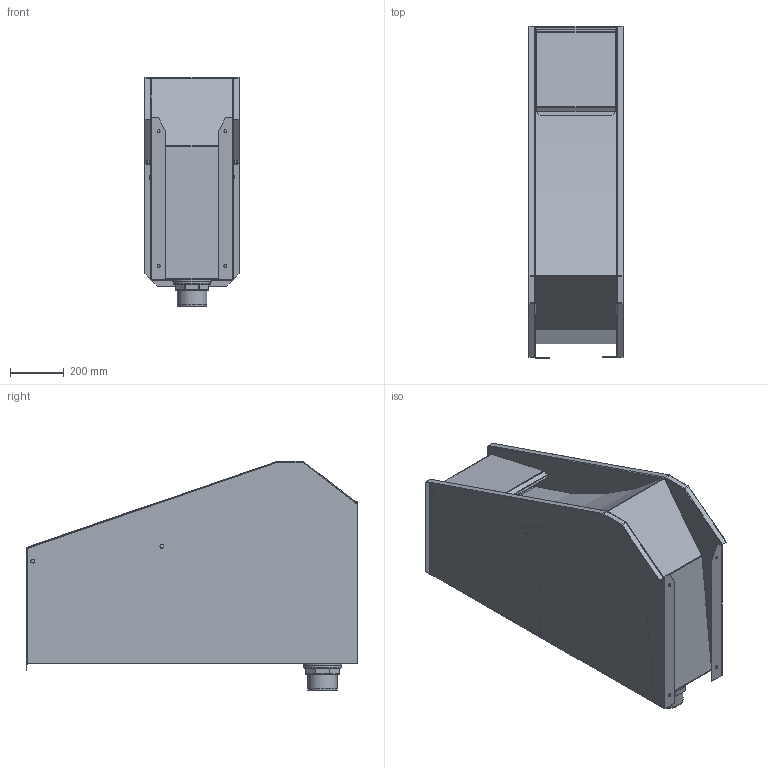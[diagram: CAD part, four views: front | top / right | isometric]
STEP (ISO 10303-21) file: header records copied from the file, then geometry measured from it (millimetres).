
FILE_DESCRIPTION(/* description */ (''),/* implementation_level */ '2;1');
FILE_NAME(/* name */ 'G:\Data\Tekenkamer\Inventor\Standard_parts\Reko\300 ts.stp',/* time_stamp */ '2017-12-13T15:48:42+01:00',/* author */ ('Endef'),/* organization */ (''),/* preprocessor_version */ 'ST-DEVELOPER v16.5',/* originating_system */ 'Autodesk Inventor 2017',/* authorisation */ '');
FILE_SCHEMA (('AUTOMOTIVE_DESIGN { 1 0 10303 214 3 1 1 }'));
Length unit declared in the file: millimetre
Products named in the file (18): 300 ts; 300 ts_1; 300 ts achterwand; 300 ts wand links; 300 ts wand rechts; 300 ts overloop; 300 ts voet; 300 ts deksel; ANSI B18.2.3.1M - M8 x 1,25 x 16; JIS B 1181 - HN - class 1 - Finished - M10; Draadeind m8x335; JIS B 1183 Type 1 - M8; ANSI B 18.2.4.1 M - M8 x 1,25; Filterplaat 300 TS; Pvc tankdoorvoer 90; tankdoorvoer 90 ring nylon; Tankdoorvoer 90 ring rubber; Tankdoorvoermoer 90
Assembly tree (22 placements, depth 2):
  300 ts
    300 ts_1
    300 ts achterwand
    300 ts wand links
    300 ts wand rechts
    300 ts overloop
    300 ts voet  x2
    300 ts deksel
    ANSI B18.2.3.1M - M8 x 1,25 x 16  x2
    JIS B 1181 - HN - class 1 - Finished - M10  x2
    Draadeind m8x335
    JIS B 1183 Type 1 - M8  x2
    ANSI B 18.2.4.1 M - M8 x 1,25  x2
    Filterplaat 300 TS
    Pvc tankdoorvoer 90
    tankdoorvoer 90 ring nylon
    Tankdoorvoer 90 ring rubber
    Tankdoorvoermoer 90
Bounding box: 350 x 1232 x 850.5 mm (x, y, z)
Volume: 6590072.8 mm3; surface area: 5978862.8 mm2
Topology: 36 solids, 36 shells, 604 faces, 1326 edges, 783 vertices
Faces by surface type: plane 360, cylinder 96, cone 96, torus 22, bspline 20, sphere 10
Full cylindrical faces by diameter (mm): 6.647 x6, 8 x3, 8.376 x2, 8.5 x2, 11 x4, 11.6 x2, 13 x2, 90 x1, 106 x1, 108.2 x1, 110 x1, 112.5 x1, 115 x4, 138 x1, 139 x2, 144 x1
Entity records: 14238 total; most frequent: CARTESIAN_POINT 3057, DIRECTION 2264, ORIENTED_EDGE 2072, EDGE_CURVE 1034, AXIS2_PLACEMENT_3D 799, LINE 666, VECTOR 666, VERTEX_POINT 644
